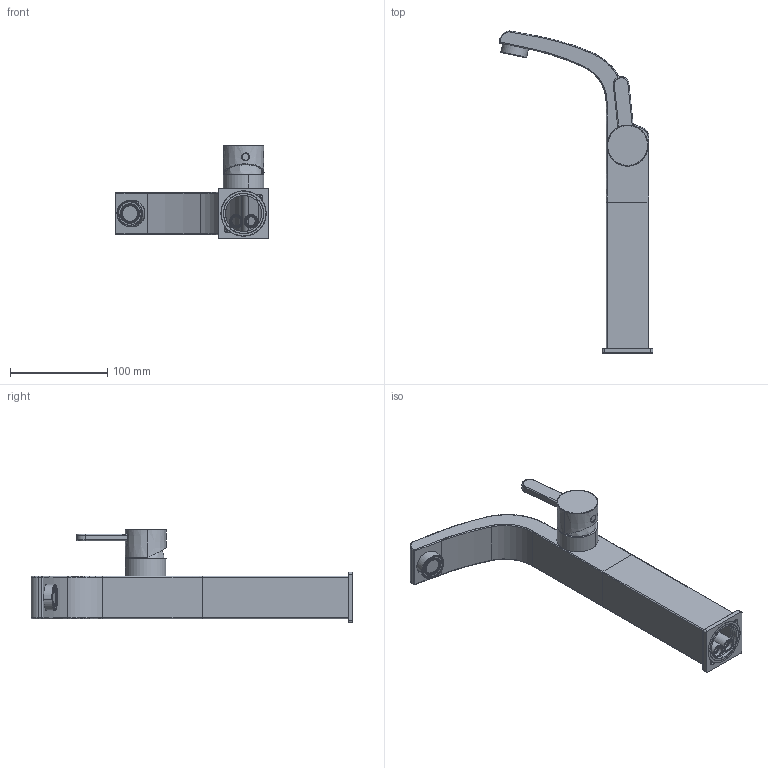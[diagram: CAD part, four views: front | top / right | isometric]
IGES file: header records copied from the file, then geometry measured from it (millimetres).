
Start section: SolidWorks IGES file using analytic representation for surfaces
Global section: file name: C:\Users\J1827277\Desktop\疏擘\FH 8220B-D56.IGS,1; native system: 5HSolidWorks 2013; preprocessor: SolidWorks 2013; author: J1827277; date: 130403.133241; units: millimetre
Bounding box: 157.93 x 330.72 x 96.2 mm (x, y, z)
Surface area: 105117.9 mm2 (no closed solid volume)
Topology: 0 solids, 0 shells, 198 faces, 3381 edges, 3379 vertices
Faces by surface type: revolution 104, bspline 94
